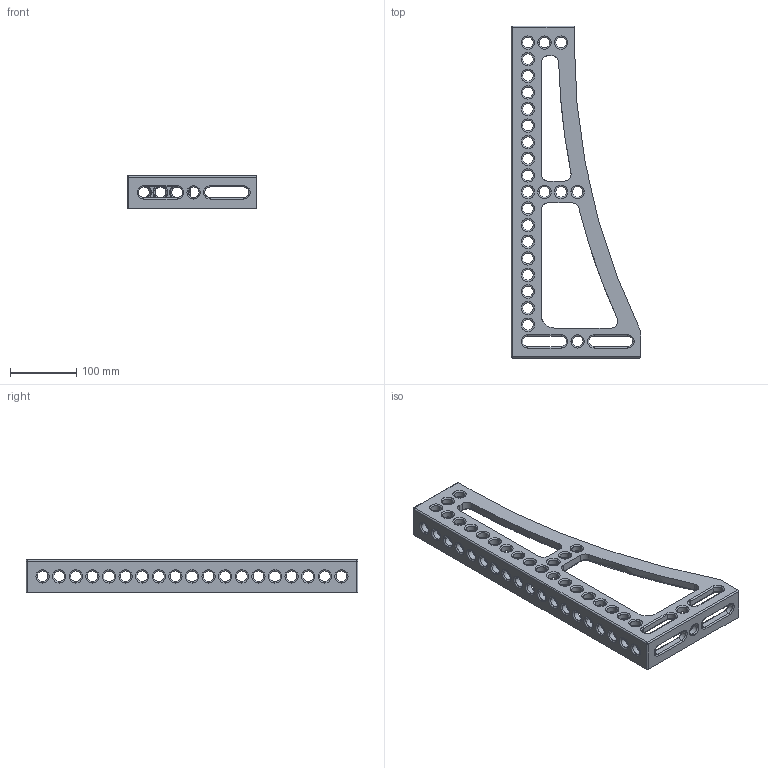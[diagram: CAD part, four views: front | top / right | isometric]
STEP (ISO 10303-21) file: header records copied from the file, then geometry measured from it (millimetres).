
FILE_DESCRIPTION (( 'STEP AP203' ), '1' );
FILE_NAME ('160134.STEP', '2020-07-07T14:25:40', ( '' ), ( '' ), 'SwSTEP 2.0', 'SolidWorks 2019', '' );
FILE_SCHEMA (( 'CONFIG_CONTROL_DESIGN' ));
Length unit declared in the file: millimetre
Products named in the file (1): 160134
Bounding box: 195 x 500 x 49 mm (x, y, z)
Volume: 718345.5 mm3; surface area: 177225.3 mm2
Topology: 1 solids, 1 shells, 646 faces, 1685 edges, 1040 vertices
Faces by surface type: cylinder 286, plane 126, torus 118, cone 94, bspline 16, sphere 6
Entity records: 20937 total; most frequent: CARTESIAN_POINT 4547, DIRECTION 3718, ORIENTED_EDGE 3362, EDGE_CURVE 1681, AXIS2_PLACEMENT_3D 1587, VERTEX_POINT 1040, CIRCLE 956, EDGE_LOOP 755
